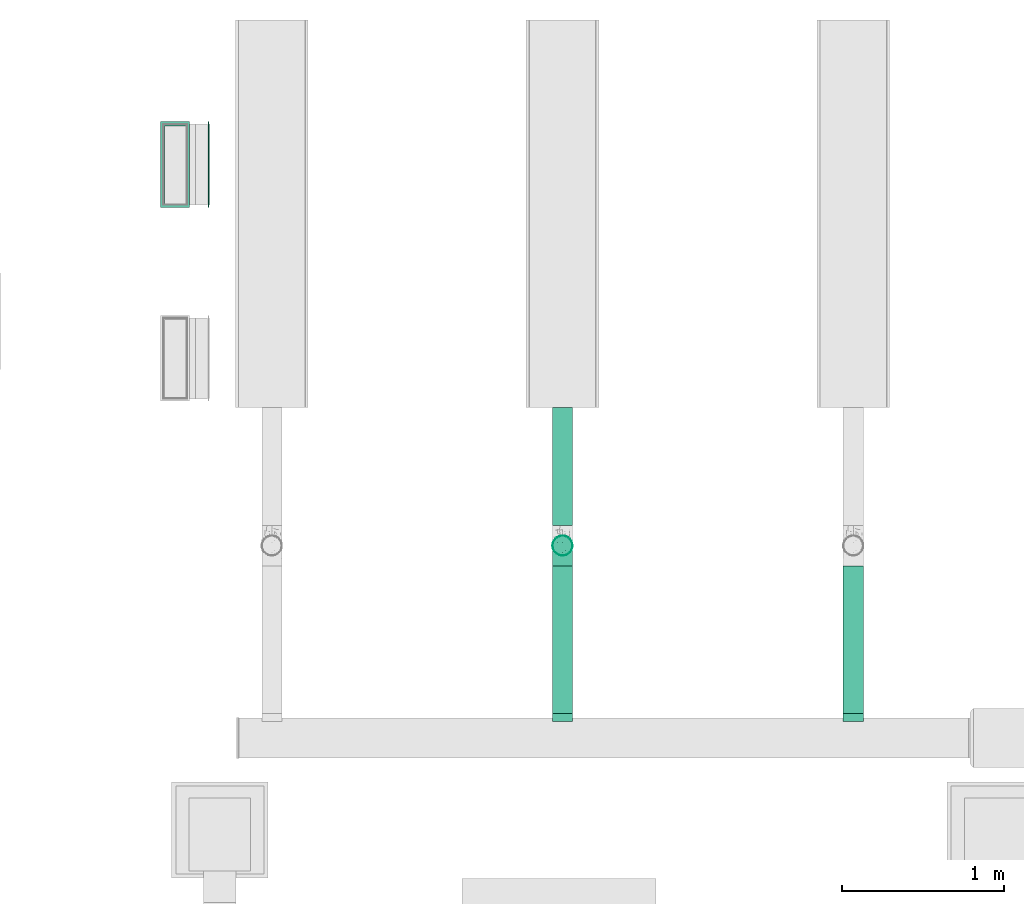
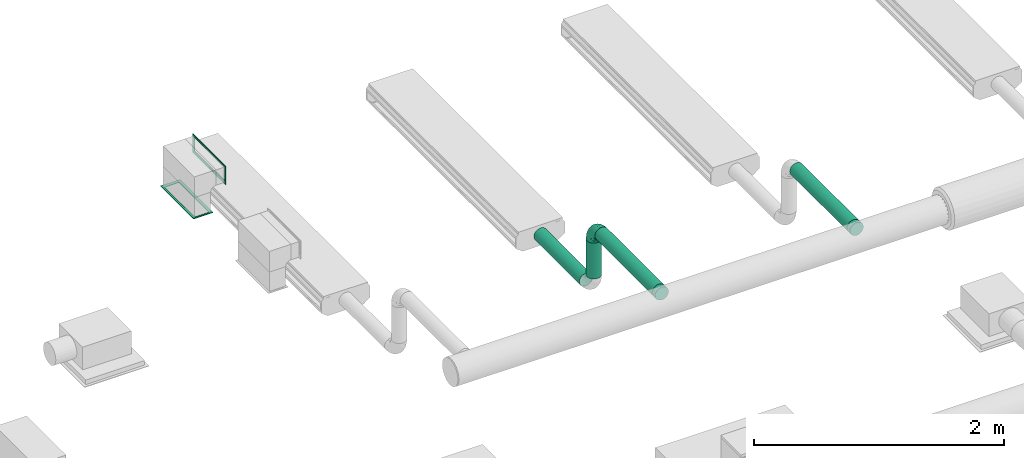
# One storey, part 25 of 36: 4 flow segments, 3 flow fittings, 2 flow terminals.
"""IFC2X3 building model written with IfcOpenShell, lengths in millimetres."""

from ifc_helpers import new_model, entity, si_unit, converted_unit, derived_unit, direction, frame, origin_with_axes, origin_2d_with_axis, place, context, subcontext, project, spatial, hollow_circle, extrude, open_shell, surface_model, source, transform, mapped, type_object, element, save


model = new_model("IFC2X3")

# Units and contexts
model_context = context("Model", 3, precision=0.01, world=frame((0.0, 4.29681676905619e-09, 0.0)), true_north=direction((4.01073788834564e-13, 1.0)))
plan_context = context("Plan", 3, precision=0.01, world=frame((0.0, 4.29681676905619e-09, 0.0)), true_north=direction((4.01073788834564e-13, 1.0)))
body_context = subcontext(model_context, "Body", "Model", "MODEL_VIEW")
ifc_project = project(units=[converted_unit("PLANEANGLEUNIT", "DEGREE", entity("IfcPositiveLengthMeasure", 0.0174532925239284), si_unit("PLANEANGLEUNIT", "RADIAN"), dimensions=[0, 0, 0, 0, 0, 0, 0]), si_unit("AREAUNIT", "SQUARE_METRE"), si_unit("LENGTHUNIT", "METRE", prefix="MILLI"), si_unit("MASSUNIT", "GRAM", prefix="KILO"), si_unit("POWERUNIT", "WATT"), si_unit("PRESSUREUNIT", "PASCAL"), si_unit("FORCEUNIT", "NEWTON", prefix="KILO"), si_unit("ELECTRICCURRENTUNIT", "AMPERE"), si_unit("THERMODYNAMICTEMPERATUREUNIT", "DEGREE_CELSIUS"), si_unit("TIMEUNIT", "SECOND"), si_unit("VOLUMEUNIT", "CUBIC_METRE"), derived_unit("LINEARVELOCITYUNIT", [(si_unit("LENGTHUNIT", "METRE"), 1), (si_unit("TIMEUNIT", "SECOND"), -1)]), derived_unit("VOLUMETRICFLOWRATEUNIT", [(si_unit("VOLUMEUNIT", "CUBIC_METRE"), 1), (si_unit("TIMEUNIT", "SECOND"), -1)]), derived_unit("THERMALTRANSMITTANCEUNIT", [(si_unit("POWERUNIT", "WATT"), 1), (si_unit("THERMODYNAMICTEMPERATUREUNIT", "KELVIN"), -1), (si_unit("AREAUNIT", "SQUARE_METRE"), -1)])], contexts=[model_context, plan_context])

# Site, building, storey
site_placement = place(None, frame((0.0, -4.29681676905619e-09, 0.0), z_axis=(0.0, 0.0, 1.0), x_axis=(1.0, 0.0, 0.0)))
site = spatial("IfcSite", under=ifc_project, at=site_placement, CompositionType="ELEMENT")
building_placement = place(site_placement, frame((0.0, 4.29681676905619e-09, 0.0), z_axis=(0.0, 0.0, 1.0), x_axis=(1.0, 0.0, 0.0)))
building = spatial("IfcBuilding", under=site, at=building_placement, Name="mc-building", CompositionType="ELEMENT")
storey_placement = place(building_placement, frame((0.0, 0.0, 204000.0), z_axis=(0.0, 0.0, 1.0), x_axis=(1.0, 0.0, 0.0)))
storey = spatial("IfcBuildingStorey", under=building, at=storey_placement, Name="Nivå D", CompositionType="ELEMENT", Elevation=204000.0)

# Flow fittings
duct_fitting_type_1 = type_object("IfcDuctFittingType", Name="magicirc_elbow_full_radius_001", PredefinedType="BEND")
shared_shape_1 = source(origin_with_axes(), body_context, "Body", "SurfaceModel", [
    surface_model("IfcShellBasedSurfaceModel", [(-125.0, 31.25, -54.12659), (-125.0, 16.17619, -60.37037), (-125.0, 44.19417, -44.19417), (-125.0, 60.37037, -16.17619), (-125.0, 54.12659, -31.25), (-125.0, -31.25, -54.12659), (-125.0, -44.19417, -44.19417), (-125.0, -16.17619, -60.37037), (-125.0, -54.12659, -31.25), (-125.0, -60.37037, -16.17619), (-125.0, -62.5, 0.0), (-125.0, -54.12659, 31.25), (-125.0, -44.19417, 44.19417), (-125.0, -60.37037, 16.17619), (-125.0, -16.17619, 60.37037), (-125.0, 0.0, 62.5), (-125.0, -31.25, 54.12659), (-125.0, 16.17619, 60.37037), (-44.19417, 125.0, -44.19417), (-16.17619, 125.0, -60.37037), (-31.25, 125.0, -54.12659), (-54.12659, 125.0, -31.25), (-60.37037, 125.0, -16.17619), (16.17619, 125.0, -60.37037), (44.19417, 125.0, -44.19417), (31.25, 125.0, -54.12659), (60.37037, 125.0, -16.17619), (54.12659, 125.0, -31.25), (62.5, 125.0, 0.0), (-44.19417, 125.0, 44.19417), (-31.25, 125.0, 54.12659), (-16.17619, 125.0, 60.37037), (60.37037, 125.0, 16.17619), (44.19417, 125.0, 44.19417), (54.12659, 125.0, 31.25), (31.25, 125.0, 54.12659), (0.0, 125.0, 62.5), (16.17619, 125.0, 60.37037), (-92.0149, -48.59662, 35.11543), (-82.31101, -36.10079, 46.59002), (-83.27732, -57.79898, 0.0), (21.5934, 8.09566, 0.0), (6.68953, -6.68953, 12.50062), (-8.09566, -21.5934, 0.0), (-85.18285, -54.95352, 19.72452), (-63.86862, 108.10791, 10.69753), (-72.65264, 88.16475, 13.64847), (-58.85933, 108.47697, 26.01876), (28.68805, 50.93011, 42.73586), (15.24994, 48.30376, 51.88115), (13.33611, 22.15566, 40.76355), (-28.58034, -33.18174, 16.61251), (-55.80927, -40.00167, 31.60254), (-55.92901, -46.21073, 18.75923), (-43.6468, -43.93166, 0.0), (-11.16429, 11.16428, 51.09905), (-91.91541, -23.64007, 56.2333), (-48.30376, -15.24994, 51.88115), (-62.2246, -0.56088, 60.57833), (-86.05221, 71.09173, 22.01563), (-76.29757, 73.71528, 30.99181), (-95.48, -8.27954, 61.43109), (-21.72166, 61.46244, 62.38786), (-46.29465, 46.29465, 60.98138), (-37.21568, 27.31198, 62.17805), (-125.0, 31.25, 54.12659), (-96.3442, 24.51222, 59.0402), (-23.33012, 107.80836, 58.54242), (-8.56588, 93.49118, 62.34649), (-87.52028, 9.58041, 62.39347), (-125.0, 54.12659, 31.25), (-90.8433, 62.14568, 32.36992), (-104.65631, 61.64741, 22.10298), (-108.67612, 63.76169, 10.43133), (-125.0, 62.5, 0.0), (-125.0, 60.37037, 16.17619), (-88.81041, 72.98575, 10.36437), (36.10079, 82.31101, 46.59002), (-22.15566, -13.33612, 40.76355), (-125.0, 44.19417, 44.19417), (-97.70214, 52.10141, 41.01675), (33.18174, 28.58034, 16.61251), (43.93166, 43.6468, 0.0), (-108.13323, 37.84893, 50.9265), (-16.31425, 41.86087, 61.36861), (-31.05498, 11.46575, 58.36241), (-6.38494, 33.76703, 57.43674), (23.64007, 91.91541, 56.2333), (8.27954, 95.48, 61.43109), (40.00167, 55.80927, 31.60254), (47.31258, 55.33607, 14.21495), (57.79898, 83.27732, 0.0), (54.95352, 85.18285, 19.72452), (48.59662, 92.0149, 35.11543), (-51.08394, 80.06201, 49.23756), (-51.34965, 100.68876, 40.68918), (-65.88145, 69.79931, 44.27158), (-67.25753, 101.08228, 0.0), (-60.37037, 125.0, 16.17619), (-54.12659, 125.0, 31.25), (-66.7509, 56.0836, 51.93913), (-47.27423, 67.56375, 55.69769), (-62.5, 125.0, 0.0), (-80.80582, 80.80582, 0.0), (-101.08228, 67.25753, 0.0), (-27.0301, 84.68903, 59.52251), (-39.49549, 96.79785, 51.80473), (-4.68934, 4.68934, 43.22247), (2.91368, -2.91368, 27.95973), (-68.67967, 26.77168, 61.38152), (-61.32894, 15.31518, 62.47333), (-66.44476, 42.40788, 57.80884), (-86.06534, 42.42608, 52.63144), (-36.4073, 64.87811, 59.87196), (0.56088, 62.2246, 60.57833), (-50.92891, -28.66756, 42.755), (-64.50927, 88.5041, 30.85553), (-27.43118, -26.16339, 29.83954), (22.73426, 21.43212, 28.89237), (-90.73911, 40.97988, -52.27133), (-51.05944, -15.77315, -52.43613), (-54.27147, -0.77962, -59.44482), (-25.11169, -1.04586, -51.21226), (-125.0, 0.0, -62.5), (-98.94229, 7.90272, -62.29658), (-67.16143, 94.52638, -18.73917), (-96.1712, 24.53976, -59.04752), (-57.8841, 72.64103, -48.12601), (-44.50916, 76.42373, -54.27754), (-57.76281, 57.76281, -54.8772), (-107.28047, 64.03146, -11.08737), (-59.60363, -46.85882, -20.9596), (-91.17795, -55.95169, -20.37554), (-87.70528, 72.36167, -15.72738), (37.33987, 90.42119, -47.18844), (21.5694, 79.15007, -55.58604), (24.6394, 105.55614, -56.88213), (-98.81833, 51.80612, -40.89409), (-75.37655, 57.2746, -47.13743), (-29.56225, -32.61603, -19.86672), (2.63114, 29.35884, -52.12213), (-22.06401, 22.064, -59.01679), (-105.22465, -49.75349, -36.31269), (-39.22852, 98.11971, -51.7028), (-25.51302, 90.93127, -59.26694), (7.06321, 14.54725, -41.00964), (25.49531, 46.66577, -43.72165), (20.99941, 20.9078, -30.93535), (-90.42119, -37.33987, -47.18844), (-47.40462, -35.90659, -32.07933), (-105.55614, -24.6394, -56.88213), (0.77962, 54.27147, -59.44482), (12.91756, 53.35696, -54.59988), (7.88048, 92.08251, -61.35725), (0.0, 125.0, -62.5), (-79.15007, -21.5694, -55.58604), (-92.08251, -7.88048, -61.35725), (-78.52964, -46.34869, -33.8522), (-68.20954, -28.53784, -49.07387), (46.34869, 78.52964, -33.8522), (46.85882, 59.60363, -20.9596), (35.90659, 47.40462, -32.07933), (-75.95077, 74.3101, -30.65772), (-100.92719, 60.72326, -27.00798), (2.91558, -2.91558, -27.95435), (6.69001, -6.69001, -12.49729), (32.61603, 29.56225, -19.86672), (-54.06785, 91.48679, -41.70621), (-58.74822, 101.55878, -30.19257), (-7.90272, 98.94229, -62.29658), (49.75349, 105.22465, -36.31269), (-14.77484, 68.85348, -62.48651), (-33.7955, 36.46996, -62.46452), (-36.98162, 59.24998, -60.63975), (55.95169, 91.17795, -20.37554), (-61.70769, 36.16979, -60.43635), (-23.35082, -23.18253, -30.24249), (-68.85348, 14.77484, -62.48651), (-16.60827, -10.64436, -39.25753), (-46.66577, -25.49531, -43.72165), (-69.70063, 70.78468, -40.55271)], [open_shell([[[0, 1, 2]], [[3, 4, 2]], [[5, 6, 7]], [[8, 9, 6]], [[10, 6, 9]], [[11, 12, 13]], [[13, 12, 10]], [[14, 15, 16]], [[16, 15, 17]], [[18, 19, 20]], [[18, 21, 22]], [[23, 24, 25]], [[24, 26, 27]], [[26, 24, 28]], [[29, 30, 31]], [[32, 33, 34]], [[35, 36, 37]], [[12, 38, 39]], [[13, 10, 40]], [[41, 42, 43]], [[44, 11, 13]], [[40, 44, 13]], [[45, 46, 47]], [[11, 38, 12]], [[48, 49, 50]], [[51, 52, 53]], [[51, 53, 54]], [[12, 39, 16]], [[51, 54, 43]], [[55, 50, 49]], [[56, 57, 58]], [[46, 59, 60]], [[61, 15, 14]], [[62, 63, 64]], [[65, 17, 66]], [[56, 16, 39]], [[31, 67, 68]], [[15, 69, 17]], [[70, 71, 72]], [[73, 74, 75]], [[59, 76, 73]], [[77, 33, 35]], [[55, 57, 78]], [[79, 80, 70]], [[81, 41, 82]], [[79, 65, 83]], [[84, 85, 86]], [[77, 35, 87]], [[59, 73, 72]], [[88, 37, 36]], [[89, 81, 90]], [[91, 92, 90]], [[91, 32, 92]], [[93, 92, 34]], [[36, 31, 68]], [[53, 40, 54]], [[32, 34, 92]], [[77, 89, 93]], [[34, 33, 93]], [[94, 95, 96]], [[45, 97, 46]], [[98, 47, 99]], [[32, 91, 28]], [[38, 44, 52]], [[71, 60, 59]], [[94, 100, 101]], [[102, 97, 45]], [[15, 61, 69]], [[46, 103, 76]], [[79, 83, 80]], [[97, 103, 46]], [[87, 35, 37]], [[47, 95, 99]], [[76, 103, 104]], [[105, 106, 101]], [[107, 108, 50]], [[105, 62, 68]], [[16, 56, 14]], [[106, 105, 67]], [[67, 31, 30]], [[30, 29, 106]], [[77, 87, 49]], [[90, 81, 82]], [[109, 110, 64]], [[66, 17, 69]], [[111, 66, 109]], [[100, 80, 112]], [[72, 71, 59]], [[95, 29, 99]], [[113, 101, 63]], [[105, 113, 62]], [[88, 68, 114]], [[57, 56, 39]], [[61, 56, 58]], [[57, 115, 78]], [[57, 55, 85]], [[88, 87, 37]], [[114, 86, 49]], [[114, 49, 87]], [[107, 50, 55]], [[44, 38, 11]], [[39, 38, 52]], [[77, 93, 33]], [[92, 93, 89]], [[109, 66, 69]], [[83, 66, 112]], [[73, 76, 104]], [[46, 76, 59]], [[74, 73, 104]], [[73, 75, 72]], [[75, 70, 72]], [[71, 70, 80]], [[80, 96, 71]], [[60, 96, 116]], [[106, 94, 101]], [[111, 100, 112]], [[109, 64, 63]], [[114, 68, 62]], [[85, 64, 58]], [[62, 64, 84]], [[68, 88, 36]], [[87, 88, 114]], [[56, 61, 14]], [[69, 61, 58]], [[96, 95, 116]], [[106, 29, 95]], [[42, 51, 43]], [[117, 108, 78]], [[89, 48, 118]], [[81, 118, 42]], [[115, 57, 39]], [[51, 117, 52]], [[118, 50, 108]], [[77, 48, 89]], [[109, 69, 110]], [[111, 109, 63]], [[101, 111, 63]], [[66, 111, 112]], [[101, 100, 111]], [[80, 100, 96]], [[69, 58, 110]], [[58, 64, 110]], [[96, 60, 71]], [[46, 60, 116]], [[57, 85, 58]], [[86, 85, 55]], [[49, 86, 55]], [[84, 86, 114]], [[62, 84, 114]], [[85, 84, 64]], [[47, 46, 116]], [[102, 45, 98]], [[81, 42, 41]], [[51, 42, 108]], [[66, 83, 65]], [[80, 83, 112]], [[106, 67, 30]], [[68, 67, 105]], [[45, 47, 98]], [[95, 47, 116]], [[62, 113, 63]], [[105, 101, 113]], [[95, 94, 106]], [[100, 94, 96]], [[52, 44, 53]], [[53, 44, 40]], [[91, 90, 82]], [[89, 90, 92]], [[39, 52, 115]], [[117, 115, 52]], [[108, 117, 51]], [[115, 117, 78]], [[55, 78, 107]], [[108, 107, 78]], [[42, 118, 108]], [[89, 118, 81]], [[49, 48, 77]], [[118, 48, 50]], [[2, 119, 0]], [[120, 121, 122]], [[123, 1, 124]], [[125, 97, 102]], [[0, 126, 1]], [[127, 128, 129]], [[104, 130, 74]], [[131, 40, 132]], [[104, 133, 130]], [[134, 135, 136]], [[137, 138, 119]], [[54, 139, 43]], [[140, 122, 141]], [[119, 2, 137]], [[132, 8, 142]], [[143, 20, 144]], [[40, 10, 9]], [[145, 146, 147]], [[148, 6, 5]], [[139, 131, 149]], [[150, 148, 5]], [[140, 151, 152]], [[23, 153, 154]], [[132, 9, 8]], [[142, 8, 6]], [[155, 156, 121]], [[157, 148, 158]], [[5, 7, 150]], [[156, 7, 123]], [[159, 160, 161]], [[103, 133, 104]], [[54, 40, 131]], [[125, 162, 133]], [[137, 163, 162]], [[22, 125, 102]], [[139, 164, 165]], [[166, 82, 41]], [[167, 168, 21]], [[162, 125, 168]], [[25, 24, 134]], [[153, 23, 136]], [[19, 169, 144]], [[126, 0, 119]], [[169, 19, 154]], [[24, 27, 170]], [[20, 143, 18]], [[19, 144, 20]], [[23, 25, 136]], [[82, 166, 160]], [[165, 166, 41]], [[171, 172, 173]], [[141, 151, 140]], [[165, 41, 43]], [[156, 155, 150]], [[135, 134, 146]], [[27, 26, 174]], [[28, 91, 26]], [[175, 126, 119]], [[2, 4, 137]], [[174, 159, 170]], [[176, 139, 149]], [[171, 153, 151]], [[125, 103, 97]], [[21, 18, 167]], [[173, 144, 171]], [[130, 163, 3]], [[127, 143, 128]], [[138, 127, 129]], [[174, 160, 159]], [[170, 134, 24]], [[146, 134, 159]], [[151, 153, 135]], [[169, 153, 171]], [[152, 146, 140]], [[151, 141, 172]], [[26, 91, 174]], [[160, 91, 82]], [[155, 120, 158]], [[142, 148, 157]], [[124, 156, 123]], [[177, 172, 121]], [[177, 121, 156]], [[121, 141, 122]], [[132, 157, 131]], [[40, 9, 132]], [[125, 133, 103]], [[168, 22, 21]], [[163, 4, 3]], [[119, 138, 129]], [[175, 119, 129]], [[124, 126, 177]], [[144, 173, 128]], [[167, 18, 143]], [[146, 145, 140]], [[178, 122, 145]], [[122, 140, 145]], [[122, 179, 120]], [[162, 163, 133]], [[137, 4, 163]], [[126, 124, 1]], [[156, 124, 177]], [[153, 169, 154]], [[144, 169, 171]], [[146, 161, 147]], [[145, 164, 178]], [[176, 164, 139]], [[122, 178, 179]], [[171, 151, 172]], [[175, 129, 173]], [[121, 172, 141]], [[175, 172, 177]], [[172, 175, 173]], [[126, 175, 177]], [[162, 180, 137]], [[180, 167, 127]], [[160, 174, 91]], [[161, 160, 166]], [[161, 166, 147]], [[146, 159, 161]], [[166, 164, 147]], [[164, 145, 147]], [[149, 131, 157]], [[54, 131, 139]], [[157, 179, 149]], [[176, 179, 178]], [[180, 127, 138]], [[143, 127, 167]], [[144, 128, 143]], [[173, 129, 128]], [[137, 180, 138]], [[167, 180, 162]], [[179, 176, 149]], [[164, 176, 178]], [[139, 165, 43]], [[166, 165, 164]], [[163, 130, 133]], [[74, 130, 3]], [[134, 136, 25]], [[153, 136, 135]], [[174, 170, 27]], [[134, 170, 159]], [[156, 150, 7]], [[148, 150, 155]], [[148, 142, 6]], [[132, 142, 157]], [[162, 168, 167]], [[22, 168, 125]], [[151, 135, 152]], [[146, 152, 135]], [[158, 120, 179]], [[121, 120, 155]], [[157, 158, 179]], [[155, 158, 148]], [[123, 6, 1]], [[6, 2, 1]], [[2, 6, 3]], [[6, 123, 7]], [[10, 12, 6]], [[75, 3, 6]], [[6, 16, 75]], [[75, 16, 70]], [[65, 70, 16]], [[79, 70, 65]], [[65, 16, 17]], [[12, 16, 6]], [[74, 3, 75]], [[19, 24, 154]], [[23, 154, 24]], [[22, 102, 98]], [[24, 19, 18]], [[33, 24, 18]], [[33, 18, 22]], [[24, 32, 28]], [[33, 22, 98]], [[29, 98, 99]], [[98, 29, 33]], [[31, 33, 29]], [[24, 33, 32]], [[36, 35, 33]], [[31, 36, 33]]])]),
])
flow_fitting_placement = place(storey_placement, frame((523018.76742, 417759.63634, 3199.99995), z_axis=(1.0, 0.0, 0.0), x_axis=(0.0, 0.0, 1.0)))
element("IfcFlowFitting", 1, at=flow_fitting_placement, inside=storey, type_object=duct_fitting_type_1, Name="magicirc_elbow_full_radius_001", context=body_context, shape_type="MappedRepresentation", body=[
    mapped(shared_shape_1, transform((0.0, 0.0, 0.0), scale=1.0)),
])
duct_fitting_type_2 = type_object("IfcDuctFittingType", Name="magicirc_tapoutlet_001", PredefinedType="CONNECTOR")
shared_shape_2 = source(origin_with_axes(), body_context, "Body", "SurfaceModel", [
    surface_model("IfcShellBasedSurfaceModel", [(25.0, 0.0, -62.5), (25.0, -31.25, -54.12659), (25.0, -16.17619, -60.37037), (-22.84282, 0.0, -62.5), (-22.84282, -16.17619, -60.37037), (-22.84282, 16.17619, -60.37037), (-22.84282, 60.37037, 16.17619), (-22.84282, 31.25, -54.12659), (-22.84282, 44.19417, -44.19417), (-22.84282, 54.12659, -31.25), (-22.84282, -62.5, 0.0), (-22.84282, -60.37037, 16.17619), (-22.84282, -44.19417, -44.19417), (-22.84282, -31.25, -54.12659), (-22.84282, -60.37037, -16.17619), (-22.84282, -54.12659, -31.25), (-22.84282, 60.37037, -16.17619), (-22.84282, 54.12659, 31.25), (-22.84282, 44.19417, 44.19417), (-22.84282, 16.17619, 60.37037), (-22.84282, 31.25, 54.12659), (-22.84282, -16.17619, 60.37037), (-22.84282, -54.12659, 31.25), (-22.84282, -44.19417, 44.19417), (-22.84282, -31.25, 54.12659), (-22.84282, 0.0, 62.5), (-22.84282, 62.5, 0.0), (0.0, 0.0, 62.5), (0.0, 16.17619, 60.37037), (0.0, 31.25, 54.12659), (0.0, 44.19417, 44.19417), (0.0, 54.12659, 31.25), (0.0, 60.37037, 16.17619), (0.0, 62.5, 0.0), (0.0, 60.37037, -16.17619), (0.0, 54.12659, -31.25), (0.0, 44.19417, -44.19417), (0.0, 31.25, -54.12659), (0.0, 16.17619, -60.37037), (0.0, 0.0, -62.5), (0.0, -16.17619, -60.37037), (0.0, -31.25, -54.12659), (0.0, -44.19417, -44.19417), (0.0, -54.12659, -31.25), (0.0, -60.37037, -16.17619), (0.0, -62.5, 0.0), (0.0, -60.37037, 16.17619), (0.0, -54.12659, 31.25), (0.0, -44.19417, 44.19417), (0.0, -31.25, 54.12659), (0.0, -16.17619, 60.37037), (25.0, 44.19417, -44.19417), (25.0, 62.5, 0.0), (25.0, 31.25, -54.12659), (25.0, 54.12659, -31.25), (25.0, -62.5, 0.0), (25.0, -60.37037, -16.17619), (25.0, -60.37037, 16.17619), (25.0, 16.17619, -60.37037), (25.0, -44.19417, -44.19417), (25.0, -54.12659, -31.25), (25.0, 60.37037, -16.17619), (25.0, 60.37037, 16.17619), (25.0, 54.12659, 31.25), (25.0, 44.19417, 44.19417), (25.0, 31.25, 54.12659), (25.0, 0.0, 62.5), (25.0, 16.17619, 60.37037), (25.0, -44.19417, 44.19417), (25.0, -54.12659, 31.25), (25.0, -16.17619, 60.37037), (25.0, -31.25, 54.12659)], [open_shell([[[0, 1, 2]], [[3, 4, 5]], [[5, 6, 7]], [[8, 6, 9]], [[7, 6, 8]], [[5, 10, 11]], [[12, 10, 13]], [[4, 13, 10]], [[14, 10, 15]], [[12, 15, 10]], [[10, 5, 4]], [[16, 9, 6]], [[6, 5, 17]], [[18, 17, 5]], [[5, 19, 20]], [[5, 20, 18]], [[5, 21, 19]], [[22, 23, 5]], [[5, 11, 22]], [[23, 24, 5]], [[5, 24, 21]], [[21, 25, 19]], [[26, 16, 6]], [[25, 27, 28]], [[19, 28, 29]], [[25, 28, 19]], [[20, 30, 18]], [[20, 19, 29]], [[30, 20, 29]], [[17, 31, 32]], [[6, 32, 33]], [[18, 31, 17]], [[6, 17, 32]], [[26, 6, 33]], [[31, 18, 30]], [[26, 33, 34]], [[16, 34, 35]], [[26, 34, 16]], [[9, 36, 8]], [[9, 16, 35]], [[36, 9, 35]], [[7, 37, 38]], [[5, 38, 39]], [[8, 37, 7]], [[5, 7, 38]], [[3, 5, 39]], [[37, 8, 36]], [[3, 39, 40]], [[4, 40, 41]], [[3, 40, 4]], [[13, 42, 12]], [[13, 4, 41]], [[42, 13, 41]], [[15, 43, 44]], [[14, 44, 45]], [[12, 43, 15]], [[14, 15, 44]], [[10, 14, 45]], [[43, 12, 42]], [[10, 45, 46]], [[11, 46, 47]], [[10, 46, 11]], [[22, 48, 23]], [[22, 11, 47]], [[48, 22, 47]], [[24, 49, 50]], [[21, 50, 27]], [[23, 49, 24]], [[21, 24, 50]], [[25, 21, 27]], [[49, 23, 48]], [[5, 17, 6]], [[5, 18, 17]], [[20, 5, 19]], [[20, 18, 5]], [[19, 5, 21]], [[22, 5, 11]], [[51, 52, 53]], [[51, 54, 52]], [[55, 56, 57]], [[58, 52, 0]], [[53, 52, 58]], [[59, 0, 57]], [[0, 59, 1]], [[1, 2, 0]], [[60, 57, 56]], [[57, 60, 59]], [[56, 57, 55]], [[52, 54, 61]], [[62, 63, 0]], [[0, 63, 64]], [[0, 65, 66]], [[64, 65, 0]], [[65, 67, 66]], [[0, 68, 69]], [[69, 57, 0]], [[70, 71, 0]], [[71, 68, 0]], [[70, 0, 66]], [[52, 62, 0]], [[27, 66, 67]], [[28, 67, 65]], [[27, 67, 28]], [[29, 64, 30]], [[29, 28, 65]], [[64, 29, 65]], [[31, 63, 62]], [[32, 62, 52]], [[30, 63, 31]], [[32, 31, 62]], [[33, 32, 52]], [[63, 30, 64]], [[33, 52, 61]], [[34, 61, 54]], [[33, 61, 34]], [[35, 51, 36]], [[35, 34, 54]], [[51, 35, 54]], [[37, 53, 58]], [[38, 58, 0]], [[36, 53, 37]], [[38, 37, 58]], [[39, 38, 0]], [[53, 36, 51]], [[39, 0, 2]], [[40, 2, 1]], [[39, 2, 40]], [[41, 59, 42]], [[41, 40, 1]], [[59, 41, 1]], [[43, 60, 56]], [[44, 56, 55]], [[42, 60, 43]], [[44, 43, 56]], [[45, 44, 55]], [[60, 42, 59]], [[45, 55, 57]], [[46, 57, 69]], [[45, 57, 46]], [[47, 68, 48]], [[47, 46, 69]], [[68, 47, 69]], [[49, 71, 70]], [[50, 70, 66]], [[48, 71, 49]], [[50, 49, 70]], [[27, 50, 66]], [[71, 48, 68]], [[63, 0, 62]], [[63, 64, 0]], [[0, 64, 65]], [[66, 65, 67]], [[57, 0, 69]], [[0, 71, 68]], [[66, 70, 0]], [[62, 0, 52]]])]),
])
for number, where, z_axis, x_axis, name in (
    (2, (523018.76742, 416693.96658, 3200.0), (0.0, 0.0, -1.0), (0.0, 1.0, 0.0), "magicirc_tapoutlet_001"),
    (3, (524818.76742, 416693.96658, 3200.0), (0.0, 0.0, -1.0), (0.0, 1.0, 0.0), "magicirc_tapoutlet_001"),
):
    element("IfcFlowFitting", number, at=place(storey_placement, frame(where, z_axis=z_axis, x_axis=x_axis)), inside=storey, type_object=duct_fitting_type_2, Name=name, context=body_context, shape_type="MappedRepresentation", body=[
        mapped(shared_shape_2, transform((0.0, 0.0, 0.0), scale=1.0)),
    ])

# Flow segments
duct_segment_type = type_object("IfcDuctSegmentType", Name="KK001T - Spiro kanaler, Forsinket stål", PredefinedType="RIGIDSEGMENT")
shared_shape_3 = source(origin_with_axes(), body_context, "Body", "SweptSolid", [
    extrude(hollow_circle(Radius=62.5, WallThickness=2.0, at=origin_2d_with_axis()), frame((0.0, 0.0, 0.0), z_axis=(1.0, 0.0, 0.0), x_axis=(0.0, 1.0, 0.0)), (0.0, 0.0, 1.0), 729.2),
])
flow_segment_1_placement = place(storey_placement, frame((523018.76742, 417884.63638, 2600.00002000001), z_axis=(0.0, 0.0, 1.0), x_axis=(0.0, 1.0, 0.0)))
element("IfcFlowSegment", 4, at=flow_segment_1_placement, inside=storey, type_object=duct_segment_type, Name="KK001T - Spiro kanaler, Forsinket stål", context=body_context, shape_type="MappedRepresentation", body=[
    mapped(shared_shape_3, transform((0.0, 0.0, 0.0), scale=1.0)),
])
shared_shape_4 = source(origin_with_axes(), body_context, "Body", "SweptSolid", [
    extrude(hollow_circle(Radius=62.5, WallThickness=2.0, at=origin_2d_with_axis()), frame((0.0, 0.0, 0.0), z_axis=(1.0, 0.0, 0.0), x_axis=(0.0, 1.0, 0.0)), (0.0, 0.0, 1.0), 350.0),
])
flow_segment_2_placement = place(storey_placement, frame((523018.76742, 417759.63634, 2725.00002000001), z_axis=(0.0, -1.0, 0.0), x_axis=(0.0, 0.0, 1.0)))
element("IfcFlowSegment", 5, at=flow_segment_2_placement, inside=storey, type_object=duct_segment_type, Name="KK001T - Spiro kanaler, Forsinket stål", context=body_context, shape_type="MappedRepresentation", body=[
    mapped(shared_shape_4, transform((0.0, 0.0, 0.0), scale=1.0)),
])
shared_shape_5 = source(origin_with_axes(), body_context, "Body", "SweptSolid", [
    extrude(hollow_circle(Radius=62.5, WallThickness=2.0, at=origin_2d_with_axis()), frame((0.0, 0.0, 0.0), z_axis=(1.0, 0.0, 0.0), x_axis=(0.0, 1.0, 0.0)), (0.0, 0.0, 1.0), 915.7),
])
for number, where, z_axis, x_axis in (
    (6, (524818.76742, 417634.63635, 3199.99995), (0.0, 0.0, 1.0), (0.0, -1.0, 0.0)),
    (7, (523018.76742, 417634.63635, 3199.99995), (0.0, 0.0, 1.0), (0.0, -1.0, 0.0)),
):
    element("IfcFlowSegment", number, at=place(storey_placement, frame(where, z_axis=z_axis, x_axis=x_axis)), inside=storey, type_object=duct_segment_type, Name="KK001T - Spiro kanaler, Forsinket stål", context=body_context, shape_type="MappedRepresentation", body=[
        mapped(shared_shape_5, transform((0.0, 0.0, 0.0), scale=1.0)),
    ])

# Flow terminals
air_terminal_type = type_object("IfcAirTerminalType", Name="GRLc 500-150", PredefinedType="NOTDEFINED")
shared_shape_6 = source(origin_with_axes(), body_context, "Body", "SurfaceModel", [
    surface_model("IfcShellBasedSurfaceModel", [(9.90194, -239.99999, 64.98039), (4.90194, -264.99999, 89.98039), (9.90194, 239.99999, 64.98039), (4.90194, 264.99999, 89.98039), (10.09806, 239.99999, 65.01961), (5.09806, 264.99999, 90.01961), (5.09806, -264.99999, 90.01961), (10.09806, -239.99999, 65.01961), (10.09806, -239.99999, -65.01961), (5.09806, -264.99999, -90.01961), (10.09806, 239.99999, -65.01961), (5.09806, 264.99999, -90.01961), (9.90194, 239.99999, -64.98039), (4.90194, 264.99999, -89.98039), (4.90194, -264.99999, -89.98039), (9.90194, -239.99999, -64.98039), (9.90194, -239.98039, -65.0), (4.90194, -264.98039, -90.0), (4.90194, -264.98039, 90.0), (9.90194, -239.98039, 65.0), (10.09806, -240.01962, 65.0), (5.09806, -265.01962, 90.0), (5.09806, -265.01962, -90.0), (10.09806, -240.01962, -65.0), (10.09806, 240.01962, -65.0), (5.09806, 265.01962, -90.0), (5.09806, 265.01962, 90.0), (10.09806, 240.01962, 65.0), (9.90194, 239.98039, 65.0), (4.90194, 264.98039, 90.0), (4.90194, 264.98039, -90.0), (9.90194, 239.98039, -65.0), (-0.1, 264.99999, 75.0), (-0.1, 250.0, 75.0), (-0.1, 250.0, 90.0), (-0.1, 264.99999, 90.0), (0.1, 264.99999, 90.0), (0.1, 250.0, 90.0), (0.1, 250.0, 75.0), (0.1, 264.99999, 75.0), (-0.1, 264.99999, -90.0), (-0.1, 250.0, -90.0), (-0.1, 250.0, -75.0), (-0.1, 264.99999, -75.0), (0.1, 264.99999, -75.0), (0.1, 250.0, -75.0), (0.1, 250.0, -90.0), (0.1, 264.99999, -90.0), (-0.1, -250.0, -90.0), (-0.1, -264.99999, -90.0), (-0.1, -264.99999, -75.0), (-0.1, -250.0, -75.0), (0.1, -250.0, -75.0), (0.1, -264.99999, -75.0), (0.1, -264.99999, -90.0), (0.1, -250.0, -90.0), (-0.1, -250.0, 75.0), (-0.1, -264.99999, 75.0), (-0.1, -264.99999, 90.0), (-0.1, -250.0, 90.0), (0.1, -250.0, 90.0), (0.1, -264.99999, 90.0), (0.1, -264.99999, 75.0), (0.1, -250.0, 75.0), (0.0, -264.99999, 89.9), (0.0, 264.99999, 89.9), (5.0, -264.99999, 89.9), (5.0, 264.99999, 89.9), (5.0, -264.99999, 90.1), (5.0, 264.99999, 90.1), (0.0, 264.99999, 90.1), (0.0, -264.99999, 90.1), (0.0, 264.9, -90.0), (5.0, 264.9, -90.0), (5.0, 264.9, 90.0), (0.0, 264.9, 90.0), (0.0, 265.10001, 90.0), (5.0, 265.10001, 90.0), (0.0, 265.10001, -90.0), (5.0, 265.10001, -90.0), (0.0, -265.10001, -90.0), (5.0, -265.10001, -90.0), (5.0, -265.10001, 90.0), (0.0, -265.10001, 90.0), (0.0, -264.9, 90.0), (5.0, -264.9, 90.0), (0.0, -264.9, -90.0), (5.0, -264.9, -90.0), (0.0, -264.99999, -90.1), (0.0, 264.99999, -90.1), (5.0, -264.99999, -90.1), (5.0, 264.99999, -90.1), (5.0, -264.99999, -89.9), (5.0, 264.99999, -89.9), (0.0, 264.99999, -89.9), (0.0, -264.99999, -89.9), (5.0, -239.99999, -65.1), (5.0, 239.99999, -65.1), (10.0, 239.99999, -65.1), (10.0, -239.99999, -65.1), (10.0, -239.99999, -64.9), (10.0, 239.99999, -64.9), (5.0, 239.99999, -64.9), (5.0, -239.99999, -64.9), (5.0, -239.99999, 64.9), (5.0, 239.99999, 64.9), (10.0, 239.99999, 64.9), (10.0, -239.99999, 64.9), (10.0, -239.99999, 65.1), (10.0, 239.99999, 65.1), (5.0, 239.99999, 65.1), (5.0, -239.99999, 65.1), (5.0, 239.9, -65.0), (10.0, 239.9, -65.0), (10.0, 239.9, 65.0), (5.0, 239.9, 65.0), (5.0, 240.10001, 65.0), (10.0, 240.10001, 65.0), (5.0, 240.10001, -65.0), (10.0, 240.10001, -65.0), (5.0, -240.10001, -65.0), (10.0, -240.10001, -65.0), (10.0, -240.10001, 65.0), (5.0, -240.10001, 65.0), (5.0, -239.9, 65.0), (10.0, -239.9, 65.0), (5.0, -239.9, -65.0), (10.0, -239.9, -65.0)], [open_shell([[[0, 1, 2]], [[3, 2, 1]], [[4, 5, 6]], [[6, 7, 4]], [[3, 1, 6]], [[6, 5, 3]], [[2, 3, 5]], [[5, 4, 2]], [[0, 2, 4]], [[4, 7, 0]], [[1, 0, 7]], [[7, 6, 1]], [[8, 9, 10]], [[11, 10, 9]], [[12, 13, 14]], [[14, 15, 12]], [[11, 9, 14]], [[14, 13, 11]], [[10, 11, 13]], [[13, 12, 10]], [[8, 10, 12]], [[12, 15, 8]], [[9, 8, 15]], [[15, 14, 9]], [[16, 17, 18]], [[18, 19, 16]], [[20, 21, 22]], [[22, 23, 20]], [[18, 17, 22]], [[22, 21, 18]], [[19, 18, 21]], [[21, 20, 19]], [[16, 19, 23]], [[20, 23, 19]], [[17, 16, 22]], [[23, 22, 16]], [[24, 25, 26]], [[26, 27, 24]], [[28, 29, 30]], [[30, 31, 28]], [[26, 25, 30]], [[30, 29, 26]], [[27, 26, 29]], [[29, 28, 27]], [[24, 27, 31]], [[28, 31, 27]], [[25, 24, 31]], [[31, 30, 25]], [[32, 33, 34]], [[34, 35, 32]], [[36, 37, 38]], [[38, 39, 36]], [[34, 33, 38]], [[38, 37, 34]], [[35, 34, 37]], [[37, 36, 35]], [[32, 35, 36]], [[36, 39, 32]], [[33, 32, 39]], [[39, 38, 33]], [[40, 41, 42]], [[42, 43, 40]], [[44, 45, 46]], [[46, 47, 44]], [[42, 41, 46]], [[46, 45, 42]], [[43, 42, 45]], [[45, 44, 43]], [[40, 43, 44]], [[44, 47, 40]], [[41, 40, 47]], [[47, 46, 41]], [[48, 49, 50]], [[50, 51, 48]], [[52, 53, 54]], [[54, 55, 52]], [[50, 49, 54]], [[54, 53, 50]], [[51, 50, 53]], [[53, 52, 51]], [[48, 51, 52]], [[52, 55, 48]], [[49, 48, 55]], [[55, 54, 49]], [[56, 57, 58]], [[58, 59, 56]], [[60, 61, 62]], [[62, 63, 60]], [[58, 57, 62]], [[62, 61, 58]], [[59, 58, 61]], [[61, 60, 59]], [[56, 59, 60]], [[60, 63, 56]], [[57, 56, 63]], [[63, 62, 57]], [[64, 65, 66]], [[67, 66, 65]], [[68, 69, 70]], [[70, 71, 68]], [[67, 65, 70]], [[70, 69, 67]], [[66, 67, 69]], [[69, 68, 66]], [[64, 66, 68]], [[68, 71, 64]], [[65, 64, 71]], [[71, 70, 65]], [[72, 73, 74]], [[74, 75, 72]], [[76, 77, 78]], [[79, 78, 77]], [[74, 73, 79]], [[79, 77, 74]], [[75, 74, 77]], [[77, 76, 75]], [[72, 75, 76]], [[76, 78, 72]], [[73, 72, 78]], [[78, 79, 73]], [[80, 81, 82]], [[82, 83, 80]], [[84, 85, 86]], [[87, 86, 85]], [[82, 81, 87]], [[87, 85, 82]], [[83, 82, 85]], [[85, 84, 83]], [[80, 83, 84]], [[84, 86, 80]], [[81, 80, 86]], [[86, 87, 81]], [[88, 89, 90]], [[91, 90, 89]], [[92, 93, 94]], [[94, 95, 92]], [[91, 89, 94]], [[94, 93, 91]], [[90, 91, 93]], [[93, 92, 90]], [[88, 90, 92]], [[92, 95, 88]], [[89, 88, 95]], [[95, 94, 89]], [[96, 97, 98]], [[98, 99, 96]], [[100, 101, 102]], [[102, 103, 100]], [[98, 97, 101]], [[102, 101, 97]], [[99, 98, 101]], [[101, 100, 99]], [[96, 99, 100]], [[100, 103, 96]], [[97, 96, 103]], [[103, 102, 97]], [[104, 105, 106]], [[106, 107, 104]], [[108, 109, 110]], [[110, 111, 108]], [[106, 105, 109]], [[110, 109, 105]], [[107, 106, 109]], [[109, 108, 107]], [[104, 107, 108]], [[108, 111, 104]], [[105, 104, 111]], [[111, 110, 105]], [[112, 113, 114]], [[114, 115, 112]], [[116, 117, 118]], [[119, 118, 117]], [[114, 113, 119]], [[119, 117, 114]], [[115, 114, 117]], [[117, 116, 115]], [[112, 115, 118]], [[116, 118, 115]], [[113, 112, 118]], [[118, 119, 113]], [[120, 121, 122]], [[122, 123, 120]], [[124, 125, 126]], [[127, 126, 125]], [[122, 121, 127]], [[127, 125, 122]], [[123, 122, 125]], [[125, 124, 123]], [[120, 123, 126]], [[124, 126, 123]], [[121, 120, 126]], [[126, 127, 121]], [[33, 56, 34]], [[59, 34, 56]], [[37, 60, 63]], [[63, 38, 37]], [[59, 56, 63]], [[63, 60, 59]], [[34, 59, 60]], [[60, 37, 34]], [[33, 34, 37]], [[37, 38, 33]], [[56, 33, 38]], [[38, 63, 56]], [[51, 50, 57]], [[57, 56, 51]], [[63, 62, 53]], [[53, 52, 63]], [[57, 50, 53]], [[53, 62, 57]], [[56, 57, 62]], [[62, 63, 56]], [[51, 56, 63]], [[63, 52, 51]], [[50, 51, 52]], [[52, 53, 50]], [[41, 48, 42]], [[51, 42, 48]], [[45, 52, 55]], [[55, 46, 45]], [[51, 48, 55]], [[55, 52, 51]], [[42, 51, 52]], [[52, 45, 42]], [[41, 42, 45]], [[45, 46, 41]], [[48, 41, 46]], [[46, 55, 48]], [[43, 42, 33]], [[33, 32, 43]], [[39, 38, 45]], [[45, 44, 39]], [[33, 42, 45]], [[45, 38, 33]], [[32, 33, 38]], [[38, 39, 32]], [[43, 32, 39]], [[39, 44, 43]], [[42, 43, 44]], [[44, 45, 42]]])]),
])
for number, where, z_axis, x_axis in (
    (8, (520619.9495, 420119.06689, 2871.97834999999), (-1.0, 0.0, 0.0), (0.0, 0.0, -1.0)),
    (9, (520823.02798, 420119.06689, 3190.0), (0.0, 0.0, 1.0), (1.0, 0.0, 0.0)),
):
    element("IfcFlowTerminal", number, at=place(storey_placement, frame(where, z_axis=z_axis, x_axis=x_axis)), inside=storey, type_object=air_terminal_type, Name="GRLc 500-150", context=body_context, shape_type="MappedRepresentation", body=[
        mapped(shared_shape_6, transform((0.0, 0.0, 0.0), scale=1.0)),
    ])

save(model, "model.ifc")
